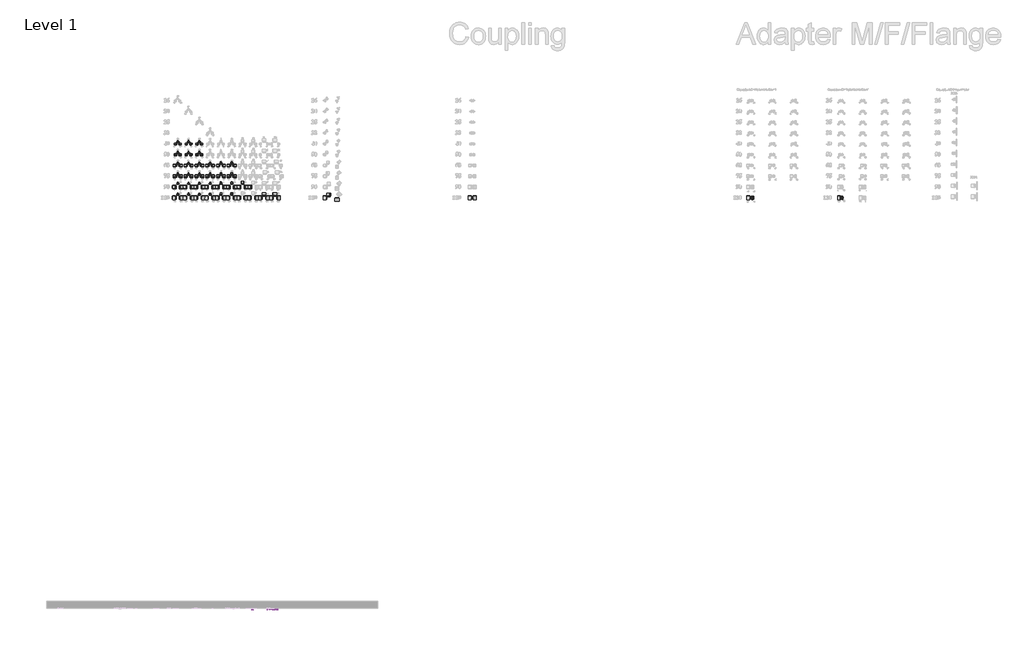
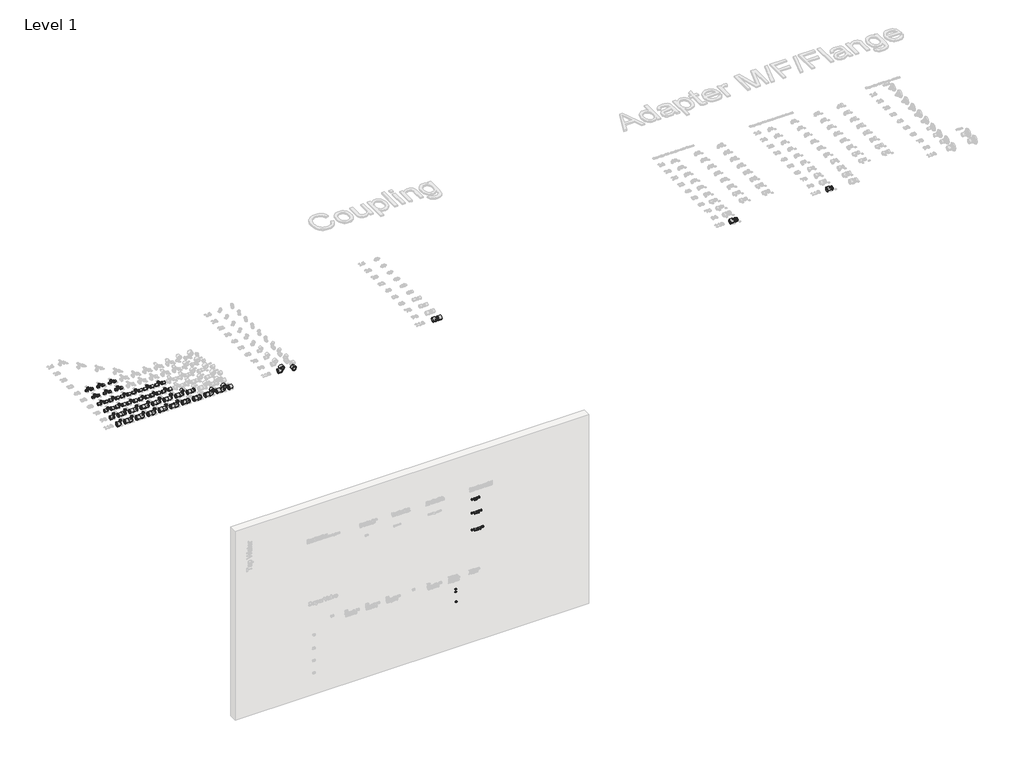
# One storey, part 2 of 57: 128 pipe fittings, 6 valves.
"""IFC4 building model written with IfcOpenShell, lengths in millimetres."""

from ifc_helpers import new_model, si_unit, origin, place, context, project, spatial, transform, mapped, element, save
from components import pipe_fitting_fd43bd29, manifold_cap_ft_2143a354, manifold_cap_mt_88d565de, rs_adapter_8da40ca7, rs_adapter_b4bbd465, rs_adapter_f82712ed, rs_adapter_ef84fdb0, rs_adapter_c6cd646c, rs_adapter_ed761ce0, rs_adapter_634e7d73, rs_adapter_fc67200b, rs_adapter_b700a1d7, rs_adapter_1ad0a11d, rs_female_adapter_0a1702e8, rs_male_adapter_f12c7176, manifold_baea2700, manifold_b658bd2c, manifold_a6c2bfd1, valve_ad88a9f9, valve_6c7f2e19, valve_fd31198a

model = new_model("IFC4")

# Units and contexts
model_context = context("Model", 3, world=origin())
ifc_project = project(units=[si_unit("LENGTHUNIT", "METRE", prefix="MILLI")], contexts=[model_context])

# Site, building, storey
site = spatial("IfcSite", under=ifc_project)
building = spatial("IfcBuilding", under=site)
storey = spatial("IfcBuildingStorey", under=building, Name="Level 1", Elevation=27.3876384)

# Pipe fittings
placement = place(None, origin())
pipe_fitting_shape = pipe_fitting_fd43bd29(model_context)
element("IfcPipeFitting", 1, ObjectType="Compression Adapter 1/2\"FT : Superpipe Compression Adapter", at=placement, inside=storey, context=model_context, shape_type="MappedRepresentation", body=[
    mapped(pipe_fitting_shape, transform((15832.3970974, 4511.8440939, 3928.2014319), x_axis=(0.0, 0.0, 1.0000000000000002), y_axis=(0.0, 1.0000000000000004, 0.0), z_axis=(-1.0000000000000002, 0.0, 0.0))),
])
element("IfcPipeFitting", 2, ObjectType="Compression Adapter 1/2\"FT : Superpipe Compression Adapter", at=placement, inside=storey, context=model_context, shape_type="MappedRepresentation", body=[
    mapped(pipe_fitting_shape, transform((15882.3970974, 4511.8440939, 3928.2014319), x_axis=(0.0, 0.0, 1.0000000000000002), y_axis=(0.0, 1.0000000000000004, 0.0), z_axis=(-1.0000000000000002, 0.0, 0.0))),
])
element("IfcPipeFitting", 3, ObjectType="Compression Adapter 1/2\"FT : Superpipe Compression Adapter", at=placement, inside=storey, context=model_context, shape_type="MappedRepresentation", body=[
    mapped(pipe_fitting_shape, transform((15832.3970974, 4511.8440939, 3550.5915778), x_axis=(0.0, 0.0, 1.0000000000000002), y_axis=(0.0, 1.0000000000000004, 0.0), z_axis=(-1.0000000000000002, 0.0, 0.0))),
])
element("IfcPipeFitting", 4, ObjectType="Compression Adapter 1/2\"FT : Superpipe Compression Adapter", at=placement, inside=storey, context=model_context, shape_type="MappedRepresentation", body=[
    mapped(pipe_fitting_shape, transform((15882.3970974, 4511.8440939, 3550.5915778), x_axis=(0.0, 0.0, 1.0000000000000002), y_axis=(0.0, 1.0000000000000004, 0.0), z_axis=(-1.0000000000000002, 0.0, 0.0))),
])
element("IfcPipeFitting", 5, ObjectType="Compression Adapter 1/2\"FT : Superpipe Compression Adapter", at=placement, inside=storey, context=model_context, shape_type="MappedRepresentation", body=[
    mapped(pipe_fitting_shape, transform((15932.3970974, 4511.8440939, 3550.5915778), x_axis=(0.0, 0.0, 1.0000000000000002), y_axis=(0.0, 1.0000000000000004, 0.0), z_axis=(-1.0000000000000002, 0.0, 0.0))),
])
element("IfcPipeFitting", 6, ObjectType="Compression Adapter 1/2\"FT : Superpipe Compression Adapter", at=placement, inside=storey, context=model_context, shape_type="MappedRepresentation", body=[
    mapped(pipe_fitting_shape, transform((15832.3970974, 4511.8440939, 3084.9820677), x_axis=(0.0, 0.0, 1.0000000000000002), y_axis=(0.0, 1.0000000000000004, 0.0), z_axis=(-1.0000000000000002, 0.0, 0.0))),
])
element("IfcPipeFitting", 7, ObjectType="Compression Adapter 1/2\"FT : Superpipe Compression Adapter", at=placement, inside=storey, context=model_context, shape_type="MappedRepresentation", body=[
    mapped(pipe_fitting_shape, transform((15882.3970974, 4511.8440939, 3084.9820677), x_axis=(0.0, 0.0, 1.0000000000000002), y_axis=(0.0, 1.0000000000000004, 0.0), z_axis=(-1.0000000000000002, 0.0, 0.0))),
])
element("IfcPipeFitting", 8, ObjectType="Compression Adapter 1/2\"FT : Superpipe Compression Adapter", at=placement, inside=storey, context=model_context, shape_type="MappedRepresentation", body=[
    mapped(pipe_fitting_shape, transform((15932.3970974, 4511.8440939, 3084.9820677), x_axis=(0.0, 0.0, 1.0000000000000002), y_axis=(0.0, 1.0000000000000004, 0.0), z_axis=(-1.0000000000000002, 0.0, 0.0))),
])
element("IfcPipeFitting", 9, ObjectType="Compression Adapter 1/2\"FT : Superpipe Compression Adapter", at=placement, inside=storey, context=model_context, shape_type="MappedRepresentation", body=[
    mapped(pipe_fitting_shape, transform((15982.3970974, 4511.8440939, 3084.9820677), x_axis=(0.0, 0.0, 1.0000000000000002), y_axis=(0.0, 1.0000000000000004, 0.0), z_axis=(-1.0000000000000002, 0.0, 0.0))),
])
manifold_cap_ft_shape = manifold_cap_ft_2143a354(model_context)
element("IfcPipeFitting", 10, ObjectType="Manifold Cap FT : Superpipe Manifold Cap With Seal- 1\" FT", at=placement, inside=storey, context=model_context, shape_type="MappedRepresentation", body=[
    mapped(manifold_cap_ft_shape, transform((15768.3970974, 4511.8440939, 3974.0856598), x_axis=(-1.0, 0.0, 0.0), y_axis=(0.0, -1.0, 0.0), z_axis=(0.0, 0.0, 1.0))),
])
element("IfcPipeFitting", 11, ObjectType="Manifold Cap FT : Superpipe Manifold Cap With Seal- 1\" FT", at=placement, inside=storey, context=model_context, shape_type="MappedRepresentation", body=[
    mapped(manifold_cap_ft_shape, transform((15768.3970974, 4511.8440939, 3596.4758057), x_axis=(-1.0, 0.0, 0.0), y_axis=(0.0, -1.0, 0.0), z_axis=(0.0, 0.0, 1.0))),
])
element("IfcPipeFitting", 12, ObjectType="Manifold Cap FT : Superpipe Manifold Cap With Seal- 1\" FT", at=placement, inside=storey, context=model_context, shape_type="MappedRepresentation", body=[
    mapped(manifold_cap_ft_shape, transform((15768.3970974, 4511.8440939, 3130.8662956), x_axis=(-1.0, 0.0, 0.0), y_axis=(0.0, -1.0, 0.0), z_axis=(0.0, 0.0, 1.0))),
])
manifold_cap_mt_shape = manifold_cap_mt_88d565de(model_context)
element("IfcPipeFitting", 13, ObjectType="Manifold Cap MT : Superpipe manifold Cap with seal- 1“MT", at=placement, inside=storey, context=model_context, shape_type="MappedRepresentation", body=[
    mapped(manifold_cap_mt_shape, transform((15941.7970974, 4511.8440939, 3974.0856598), x_axis=(1.0, 0.0, 0.0), y_axis=(0.0, -1.0, 0.0), z_axis=(0.0, 0.0, -1.0))),
])
element("IfcPipeFitting", 14, ObjectType="Manifold Cap MT : Superpipe manifold Cap with seal- 1“MT", at=placement, inside=storey, context=model_context, shape_type="MappedRepresentation", body=[
    mapped(manifold_cap_mt_shape, transform((15991.7970974, 4511.8440939, 3596.4755454), x_axis=(1.0, 0.0, 0.0), y_axis=(0.0, -1.0, 0.0), z_axis=(0.0, 0.0, -1.0))),
])
element("IfcPipeFitting", 15, ObjectType="Manifold Cap MT : Superpipe manifold Cap with seal- 1“MT", at=placement, inside=storey, context=model_context, shape_type="MappedRepresentation", body=[
    mapped(manifold_cap_mt_shape, transform((16041.7970974, 4511.8440939, 3130.8660352), x_axis=(1.0, 0.0, 0.0), y_axis=(0.0, -1.0, 0.0), z_axis=(0.0, 0.0, -1.0))),
])
rs_adapter_shape = rs_adapter_8da40ca7(model_context)
element("IfcPipeFitting", 16, ObjectType="RS Adapter : Superpipe RS Press Adapter", at=placement, inside=storey, context=model_context, shape_type="MappedRepresentation", body=[
    mapped(rs_adapter_shape, transform((13313.8568613, 15946.8081159, 27.3876384), x_axis=(1.0, 0.0, 0.0), y_axis=(0.0, 1.0, 0.0), z_axis=(0.0, 0.0, 1.0))),
])
element("IfcPipeFitting", 17, ObjectType="RS Adapter : Superpipe RS Press Adapter", at=placement, inside=storey, context=model_context, shape_type="MappedRepresentation", body=[
    mapped(rs_adapter_shape, transform((13217.8568613, 15946.8081159, 27.3876384), x_axis=(-1.0000000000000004, 0.0, 0.0), y_axis=(0.0, -1.0000000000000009, 0.0), z_axis=(0.0, 0.0, 1.0000000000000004))),
])
element("IfcPipeFitting", 18, ObjectType="RS Adapter : Superpipe RS Press Adapter", at=placement, inside=storey, context=model_context, shape_type="MappedRepresentation", body=[
    mapped(rs_adapter_shape, transform((13613.8568613, 15946.8081159, 27.3876384), x_axis=(1.0, 0.0, 0.0), y_axis=(0.0, 1.0, 0.0), z_axis=(0.0, 0.0, 1.0))),
])
element("IfcPipeFitting", 19, ObjectType="RS Adapter : Superpipe RS Press Adapter", at=placement, inside=storey, context=model_context, shape_type="MappedRepresentation", body=[
    mapped(rs_adapter_shape, transform((13517.8568613, 15946.8081159, 27.3876384), x_axis=(-1.0000000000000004, 0.0, 0.0), y_axis=(0.0, -1.0000000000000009, 0.0), z_axis=(0.0, 0.0, 1.0000000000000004))),
])
element("IfcPipeFitting", 20, ObjectType="RS Adapter : Superpipe RS Press Adapter", at=placement, inside=storey, context=model_context, shape_type="MappedRepresentation", body=[
    mapped(rs_adapter_shape, transform((13913.8568613, 15946.8081159, 27.3876384), x_axis=(1.0, 0.0, 0.0), y_axis=(0.0, 1.0, 0.0), z_axis=(0.0, 0.0, 1.0))),
])
element("IfcPipeFitting", 21, ObjectType="RS Adapter : Superpipe RS Press Adapter", at=placement, inside=storey, context=model_context, shape_type="MappedRepresentation", body=[
    mapped(rs_adapter_shape, transform((13817.8568613, 15946.8081159, 27.3876384), x_axis=(-1.0000000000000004, 0.0, 0.0), y_axis=(0.0, -1.0000000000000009, 0.0), z_axis=(0.0, 0.0, 1.0000000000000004))),
])
element("IfcPipeFitting", 22, ObjectType="RS Adapter : Superpipe RS Press Adapter", at=placement, inside=storey, context=model_context, shape_type="MappedRepresentation", body=[
    mapped(rs_adapter_shape, transform((15705.8568613, 15946.8081159, 27.3876384), x_axis=(1.0, 0.0, 0.0), y_axis=(0.0, 1.0, 0.0), z_axis=(0.0, 0.0, 1.0))),
])
element("IfcPipeFitting", 23, ObjectType="RS Adapter : Superpipe RS Press Adapter", at=placement, inside=storey, context=model_context, shape_type="MappedRepresentation", body=[
    mapped(rs_adapter_shape, transform((15609.8568613, 15946.8081159, 27.3876384), x_axis=(-1.0000000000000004, 0.0, 0.0), y_axis=(0.0, -1.0000000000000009, 0.0), z_axis=(0.0, 0.0, 1.0000000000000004))),
])
element("IfcPipeFitting", 24, ObjectType="RS Adapter : Superpipe RS Press Adapter", at=placement, inside=storey, context=model_context, shape_type="MappedRepresentation", body=[
    mapped(rs_adapter_shape, transform((16013.8568613, 15946.8081159, 27.3876384), x_axis=(1.0, 0.0, 0.0), y_axis=(0.0, 1.0, 0.0), z_axis=(0.0, 0.0, 1.0))),
])
element("IfcPipeFitting", 25, ObjectType="RS Adapter : Superpipe RS Press Adapter", at=placement, inside=storey, context=model_context, shape_type="MappedRepresentation", body=[
    mapped(rs_adapter_shape, transform((15965.8568613, 15994.8081159, 27.3876384), x_axis=(0.0, 1.0000000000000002, 0.0), y_axis=(-1.0000000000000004, 0.0, 0.0), z_axis=(0.0, 0.0, 1.0000000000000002))),
])
element("IfcPipeFitting", 26, ObjectType="RS Adapter : Superpipe RS Press Adapter", at=placement, inside=storey, context=model_context, shape_type="MappedRepresentation", body=[
    mapped(rs_adapter_shape, transform((15917.8568613, 15946.8081159, 27.3876384), x_axis=(-1.0000000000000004, 0.0, 0.0), y_axis=(0.0, -1.0000000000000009, 0.0), z_axis=(0.0, 0.0, 1.0000000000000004))),
])
element("IfcPipeFitting", 27, ObjectType="RS Adapter : Superpipe RS Press Adapter", at=placement, inside=storey, context=model_context, shape_type="MappedRepresentation", body=[
    mapped(rs_adapter_shape, transform((21437.9646899, 15946.8081159, 27.3876384), x_axis=(-1.0000000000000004, 0.0, 0.0), y_axis=(0.0, 1.0000000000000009, 0.0), z_axis=(0.0, 0.0, -1.0000000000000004))),
])
element("IfcPipeFitting", 28, ObjectType="RS Adapter : Superpipe RS Press Adapter", at=placement, inside=storey, context=model_context, shape_type="MappedRepresentation", body=[
    mapped(rs_adapter_shape, transform((21455.9646899, 15946.8081159, 27.3876384), x_axis=(1.0000000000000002, 0.0, 0.0), y_axis=(0.0, -1.0000000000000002, 0.0), z_axis=(0.0, 0.0, -1.0))),
])
element("IfcPipeFitting", 29, ObjectType="RS Adapter : Superpipe RS Press Adapter", at=placement, inside=storey, context=model_context, shape_type="MappedRepresentation", body=[
    mapped(rs_adapter_shape, transform((29176.6568613, 15946.8081159, 27.3876384), x_axis=(-1.0, 0.0, 0.0), y_axis=(0.0, 1.0, 0.0), z_axis=(0.0, 0.0, -1.0))),
])
element("IfcPipeFitting", 30, ObjectType="RS Adapter : Superpipe RS Press Adapter", at=placement, inside=storey, context=model_context, shape_type="MappedRepresentation", body=[
    mapped(rs_adapter_shape, transform((31696.6568613, 15946.8081159, 27.3876384), x_axis=(-1.0000000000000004, 0.0, 0.0), y_axis=(0.0, 1.0000000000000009, 0.0), z_axis=(0.0, 0.0, -1.0000000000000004))),
])
element("IfcPipeFitting", 31, ObjectType="RS Adapter : Superpipe RS Press Adapter", at=placement, inside=storey, context=model_context, shape_type="MappedRepresentation", body=[
    mapped(rs_adapter_shape, transform((17459.3568613, 15977.8081159, 27.3876384), x_axis=(0.0, 1.000000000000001, 0.0), y_axis=(-1.0000000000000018, 0.0, 0.0), z_axis=(0.0, 0.0, 1.0000000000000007))),
])
element("IfcPipeFitting", 32, ObjectType="RS Adapter : Superpipe RS Press Adapter", at=placement, inside=storey, context=model_context, shape_type="MappedRepresentation", body=[
    mapped(rs_adapter_shape, transform((17411.3568613, 15946.8081159, 27.3876384), x_axis=(-1.0000000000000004, 0.0, 0.0), y_axis=(0.0, -1.0000000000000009, 0.0), z_axis=(0.0, 0.0, 1.0000000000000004))),
])
element("IfcPipeFitting", 33, ObjectType="RS Adapter : Superpipe RS Press Adapter", at=placement, inside=storey, context=model_context, shape_type="MappedRepresentation", body=[
    mapped(rs_adapter_shape, transform((17689.2955265, 15954.8896532, 27.3876384), x_axis=(0.0, -1.000000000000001, 0.0), y_axis=(1.0000000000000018, 0.0, 0.0), z_axis=(0.0, 0.0, 1.0000000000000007))),
])
element("IfcPipeFitting", 34, ObjectType="RS Adapter : Superpipe RS Press Adapter", at=placement, inside=storey, context=model_context, shape_type="MappedRepresentation", body=[
    mapped(rs_adapter_shape, transform((15405.2392827, 15946.8081159, 27.3876384), x_axis=(1.0, 0.0, 0.0), y_axis=(0.0, 1.0, 0.0), z_axis=(0.0, 0.0, 1.0))),
])
element("IfcPipeFitting", 35, ObjectType="RS Adapter : Superpipe RS Press Adapter", at=placement, inside=storey, context=model_context, shape_type="MappedRepresentation", body=[
    mapped(rs_adapter_shape, transform((15309.2392827, 15946.8081159, 27.3876384), x_axis=(-1.0000000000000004, 0.0, 0.0), y_axis=(0.0, -1.0000000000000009, 0.0), z_axis=(0.0, 0.0, 1.0000000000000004))),
])
element("IfcPipeFitting", 36, ObjectType="RS Adapter : Superpipe RS Press Adapter", at=placement, inside=storey, context=model_context, shape_type="MappedRepresentation", body=[
    mapped(rs_adapter_shape, transform((15105.765703, 15946.8081159, 27.3876384), x_axis=(1.0, 0.0, 0.0), y_axis=(0.0, 1.0, 0.0), z_axis=(0.0, 0.0, 1.0))),
])
element("IfcPipeFitting", 37, ObjectType="RS Adapter : Superpipe RS Press Adapter", at=placement, inside=storey, context=model_context, shape_type="MappedRepresentation", body=[
    mapped(rs_adapter_shape, transform((15009.765703, 15946.8081159, 27.3876384), x_axis=(-1.0000000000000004, 0.0, 0.0), y_axis=(0.0, -1.0000000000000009, 0.0), z_axis=(0.0, 0.0, 1.0000000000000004))),
])
element("IfcPipeFitting", 38, ObjectType="RS Adapter : Superpipe RS Press Adapter", at=placement, inside=storey, context=model_context, shape_type="MappedRepresentation", body=[
    mapped(rs_adapter_shape, transform((14809.5592318, 15946.8081159, 27.3876384), x_axis=(1.0, 0.0, 0.0), y_axis=(0.0, 1.0, 0.0), z_axis=(0.0, 0.0, 1.0))),
])
element("IfcPipeFitting", 39, ObjectType="RS Adapter : Superpipe RS Press Adapter", at=placement, inside=storey, context=model_context, shape_type="MappedRepresentation", body=[
    mapped(rs_adapter_shape, transform((14713.5592318, 15946.8081159, 27.3876384), x_axis=(-1.0000000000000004, 0.0, 0.0), y_axis=(0.0, -1.0000000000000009, 0.0), z_axis=(0.0, 0.0, 1.0000000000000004))),
])
element("IfcPipeFitting", 40, ObjectType="RS Adapter : Superpipe RS Press Adapter", at=placement, inside=storey, context=model_context, shape_type="MappedRepresentation", body=[
    mapped(rs_adapter_shape, transform((14508.4742183, 15946.8081159, 27.3876384), x_axis=(1.0, 0.0, 0.0), y_axis=(0.0, 1.0, 0.0), z_axis=(0.0, 0.0, 1.0))),
])
element("IfcPipeFitting", 41, ObjectType="RS Adapter : Superpipe RS Press Adapter", at=placement, inside=storey, context=model_context, shape_type="MappedRepresentation", body=[
    mapped(rs_adapter_shape, transform((14412.4742183, 15946.8081159, 27.3876384), x_axis=(-1.0000000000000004, 0.0, 0.0), y_axis=(0.0, -1.0000000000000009, 0.0), z_axis=(0.0, 0.0, 1.0000000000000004))),
])
element("IfcPipeFitting", 42, ObjectType="RS Adapter : Superpipe RS Press Adapter", at=placement, inside=storey, context=model_context, shape_type="MappedRepresentation", body=[
    mapped(rs_adapter_shape, transform((14211.0780706, 15945.8788923, 27.3876384), x_axis=(1.0, 0.0, 0.0), y_axis=(0.0, 1.0, 0.0), z_axis=(0.0, 0.0, 1.0))),
])
element("IfcPipeFitting", 43, ObjectType="RS Adapter : Superpipe RS Press Adapter", at=placement, inside=storey, context=model_context, shape_type="MappedRepresentation", body=[
    mapped(rs_adapter_shape, transform((14115.0780706, 15945.8788923, 27.3876384), x_axis=(-1.0000000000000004, 0.0, 0.0), y_axis=(0.0, -1.0000000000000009, 0.0), z_axis=(0.0, 0.0, 1.0000000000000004))),
])
rs_adapter_2_shape = rs_adapter_b4bbd465(model_context)
element("IfcPipeFitting", 44, ObjectType="RS Adapter : Superpipe RS Press Adapter", at=placement, inside=storey, context=model_context, shape_type="MappedRepresentation", body=[
    mapped(rs_adapter_2_shape, transform((13265.8568613, 16021.8081159, 27.3876384), x_axis=(0.0, 1.0000000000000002, 0.0), y_axis=(-1.0000000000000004, 0.0, 0.0), z_axis=(0.0, 0.0, 1.0000000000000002))),
])
element("IfcPipeFitting", 45, ObjectType="RS Adapter : Superpipe RS Press Adapter", at=placement, inside=storey, context=model_context, shape_type="MappedRepresentation", body=[
    mapped(rs_adapter_2_shape, transform((13265.8568613, 16321.8081159, 27.3876384), x_axis=(0.0, 1.0000000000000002, 0.0), y_axis=(1.0000000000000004, 0.0, 0.0), z_axis=(0.0, 0.0, -1.0000000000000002))),
])
element("IfcPipeFitting", 46, ObjectType="RS Adapter : Superpipe RS Press Adapter", at=placement, inside=storey, context=model_context, shape_type="MappedRepresentation", body=[
    mapped(rs_adapter_2_shape, transform((13265.8568613, 17477.8081159, 27.3876384), x_axis=(0.0, 1.0000000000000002, 0.0), y_axis=(1.0000000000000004, 0.0, 0.0), z_axis=(0.0, 0.0, -1.0000000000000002))),
])
element("IfcPipeFitting", 47, ObjectType="RS Adapter : Superpipe RS Press Adapter", at=placement, inside=storey, context=model_context, shape_type="MappedRepresentation", body=[
    mapped(rs_adapter_2_shape, transform((13265.8568613, 17177.8081159, 27.3876384), x_axis=(0.0, 1.0000000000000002, 0.0), y_axis=(1.0000000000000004, 0.0, 0.0), z_axis=(0.0, 0.0, -1.0000000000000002))),
])
element("IfcPipeFitting", 48, ObjectType="RS Adapter : Superpipe RS Press Adapter", at=placement, inside=storey, context=model_context, shape_type="MappedRepresentation", body=[
    mapped(rs_adapter_2_shape, transform((13265.8568613, 16877.8081159, 27.3876384), x_axis=(0.0, 1.0000000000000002, 0.0), y_axis=(1.0000000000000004, 0.0, 0.0), z_axis=(0.0, 0.0, -1.0000000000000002))),
])
element("IfcPipeFitting", 49, ObjectType="RS Adapter : Superpipe RS Press Adapter", at=placement, inside=storey, context=model_context, shape_type="MappedRepresentation", body=[
    mapped(rs_adapter_2_shape, transform((13265.8568613, 16577.8081159, 27.3876384), x_axis=(0.0, 1.0000000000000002, 0.0), y_axis=(1.0000000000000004, 0.0, 0.0), z_axis=(0.0, 0.0, -1.0000000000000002))),
])
rs_adapter_3_shape = rs_adapter_f82712ed(model_context)
element("IfcPipeFitting", 50, ObjectType="RS Adapter : Superpipe RS Press Adapter", at=placement, inside=storey, context=model_context, shape_type="MappedRepresentation", body=[
    mapped(rs_adapter_3_shape, transform((13565.8568613, 16021.8081159, 27.3876384), x_axis=(0.0, 1.0000000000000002, 0.0), y_axis=(-1.0000000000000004, 0.0, 0.0), z_axis=(0.0, 0.0, 1.0000000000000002))),
])
element("IfcPipeFitting", 51, ObjectType="RS Adapter : Superpipe RS Press Adapter", at=placement, inside=storey, context=model_context, shape_type="MappedRepresentation", body=[
    mapped(rs_adapter_3_shape, transform((13565.8568613, 16321.8081159, 27.3876384), x_axis=(0.0, 1.0000000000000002, 0.0), y_axis=(1.0000000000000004, 0.0, 0.0), z_axis=(0.0, 0.0, -1.0000000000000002))),
])
element("IfcPipeFitting", 52, ObjectType="RS Adapter : Superpipe RS Press Adapter", at=placement, inside=storey, context=model_context, shape_type="MappedRepresentation", body=[
    mapped(rs_adapter_3_shape, transform((13565.8568613, 17477.8081159, 27.3876384), x_axis=(0.0, 1.0000000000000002, 0.0), y_axis=(1.0000000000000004, 0.0, 0.0), z_axis=(0.0, 0.0, -1.0000000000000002))),
])
element("IfcPipeFitting", 53, ObjectType="RS Adapter : Superpipe RS Press Adapter", at=placement, inside=storey, context=model_context, shape_type="MappedRepresentation", body=[
    mapped(rs_adapter_3_shape, transform((13565.8568613, 17177.8081159, 27.3876384), x_axis=(0.0, 1.0000000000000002, 0.0), y_axis=(1.0000000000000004, 0.0, 0.0), z_axis=(0.0, 0.0, -1.0000000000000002))),
])
element("IfcPipeFitting", 54, ObjectType="RS Adapter : Superpipe RS Press Adapter", at=placement, inside=storey, context=model_context, shape_type="MappedRepresentation", body=[
    mapped(rs_adapter_3_shape, transform((13565.8568613, 16877.8081159, 27.3876384), x_axis=(0.0, 1.0000000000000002, 0.0), y_axis=(1.0000000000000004, 0.0, 0.0), z_axis=(0.0, 0.0, -1.0000000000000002))),
])
element("IfcPipeFitting", 55, ObjectType="RS Adapter : Superpipe RS Press Adapter", at=placement, inside=storey, context=model_context, shape_type="MappedRepresentation", body=[
    mapped(rs_adapter_3_shape, transform((13565.8568613, 16577.8081159, 27.3876384), x_axis=(0.0, 1.0000000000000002, 0.0), y_axis=(1.0000000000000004, 0.0, 0.0), z_axis=(0.0, 0.0, -1.0000000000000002))),
])
rs_adapter_4_shape = rs_adapter_ef84fdb0(model_context)
element("IfcPipeFitting", 56, ObjectType="RS Adapter : Superpipe RS Press Adapter", at=placement, inside=storey, context=model_context, shape_type="MappedRepresentation", body=[
    mapped(rs_adapter_4_shape, transform((13865.8568613, 16021.8081159, 27.3876384), x_axis=(0.0, 1.0000000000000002, 0.0), y_axis=(-1.0000000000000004, 0.0, 0.0), z_axis=(0.0, 0.0, 1.0000000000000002))),
])
element("IfcPipeFitting", 57, ObjectType="RS Adapter : Superpipe RS Press Adapter", at=placement, inside=storey, context=model_context, shape_type="MappedRepresentation", body=[
    mapped(rs_adapter_4_shape, transform((13865.8568613, 16321.8081159, 27.3876384), x_axis=(0.0, 1.0000000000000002, 0.0), y_axis=(1.0000000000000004, 0.0, 0.0), z_axis=(0.0, 0.0, -1.0000000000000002))),
])
element("IfcPipeFitting", 58, ObjectType="RS Adapter : Superpipe RS Press Adapter", at=placement, inside=storey, context=model_context, shape_type="MappedRepresentation", body=[
    mapped(rs_adapter_4_shape, transform((13865.8568613, 17477.8081159, 27.3876384), x_axis=(0.0, 1.0000000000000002, 0.0), y_axis=(1.0000000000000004, 0.0, 0.0), z_axis=(0.0, 0.0, -1.0000000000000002))),
])
element("IfcPipeFitting", 59, ObjectType="RS Adapter : Superpipe RS Press Adapter", at=placement, inside=storey, context=model_context, shape_type="MappedRepresentation", body=[
    mapped(rs_adapter_4_shape, transform((13865.8568613, 17177.8081159, 27.3876384), x_axis=(0.0, 1.0000000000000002, 0.0), y_axis=(1.0000000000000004, 0.0, 0.0), z_axis=(0.0, 0.0, -1.0000000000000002))),
])
element("IfcPipeFitting", 60, ObjectType="RS Adapter : Superpipe RS Press Adapter", at=placement, inside=storey, context=model_context, shape_type="MappedRepresentation", body=[
    mapped(rs_adapter_4_shape, transform((13865.8568613, 16877.8081159, 27.3876384), x_axis=(0.0, 1.0000000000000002, 0.0), y_axis=(1.0000000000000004, 0.0, 0.0), z_axis=(0.0, 0.0, -1.0000000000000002))),
])
element("IfcPipeFitting", 61, ObjectType="RS Adapter : Superpipe RS Press Adapter", at=placement, inside=storey, context=model_context, shape_type="MappedRepresentation", body=[
    mapped(rs_adapter_4_shape, transform((13865.8568613, 16577.8081159, 27.3876384), x_axis=(0.0, 1.0000000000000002, 0.0), y_axis=(1.0000000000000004, 0.0, 0.0), z_axis=(0.0, 0.0, -1.0000000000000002))),
])
rs_adapter_5_shape = rs_adapter_c6cd646c(model_context)
element("IfcPipeFitting", 62, ObjectType="RS Adapter : Superpipe RS Press Adapter", at=placement, inside=storey, context=model_context, shape_type="MappedRepresentation", body=[
    mapped(rs_adapter_5_shape, transform((15657.8568613, 15994.8081159, 27.3876384), x_axis=(0.0, 1.0000000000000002, 0.0), y_axis=(-1.0000000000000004, 0.0, 0.0), z_axis=(0.0, 0.0, 1.0000000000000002))),
])
element("IfcPipeFitting", 63, ObjectType="RS Adapter : Superpipe RS Press Adapter", at=placement, inside=storey, context=model_context, shape_type="MappedRepresentation", body=[
    mapped(rs_adapter_5_shape, transform((13217.8568613, 16246.8081159, 27.3876384), x_axis=(-1.0, 0.0, 0.0), y_axis=(0.0, 1.0, 0.0), z_axis=(0.0, 0.0, -1.0))),
])
element("IfcPipeFitting", 64, ObjectType="RS Adapter : Superpipe RS Press Adapter", at=placement, inside=storey, context=model_context, shape_type="MappedRepresentation", body=[
    mapped(rs_adapter_5_shape, transform((13313.8568613, 16246.8081159, 27.3876384), x_axis=(1.0000000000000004, 0.0, 0.0), y_axis=(0.0, -1.0000000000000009, 0.0), z_axis=(0.0, 0.0, -1.0000000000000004))),
])
element("IfcPipeFitting", 65, ObjectType="RS Adapter : Superpipe RS Press Adapter", at=placement, inside=storey, context=model_context, shape_type="MappedRepresentation", body=[
    mapped(rs_adapter_5_shape, transform((13517.8568613, 16246.8081159, 27.3876384), x_axis=(-1.0, 0.0, 0.0), y_axis=(0.0, 1.0, 0.0), z_axis=(0.0, 0.0, -1.0))),
])
element("IfcPipeFitting", 66, ObjectType="RS Adapter : Superpipe RS Press Adapter", at=placement, inside=storey, context=model_context, shape_type="MappedRepresentation", body=[
    mapped(rs_adapter_5_shape, transform((13613.8568613, 16246.8081159, 27.3876384), x_axis=(1.0000000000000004, 0.0, 0.0), y_axis=(0.0, -1.0000000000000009, 0.0), z_axis=(0.0, 0.0, -1.0000000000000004))),
])
element("IfcPipeFitting", 67, ObjectType="RS Adapter : Superpipe RS Press Adapter", at=placement, inside=storey, context=model_context, shape_type="MappedRepresentation", body=[
    mapped(rs_adapter_5_shape, transform((13817.8568613, 16246.8081159, 27.3876384), x_axis=(-1.0, 0.0, 0.0), y_axis=(0.0, 1.0, 0.0), z_axis=(0.0, 0.0, -1.0))),
])
element("IfcPipeFitting", 68, ObjectType="RS Adapter : Superpipe RS Press Adapter", at=placement, inside=storey, context=model_context, shape_type="MappedRepresentation", body=[
    mapped(rs_adapter_5_shape, transform((13913.8568613, 16246.8081159, 27.3876384), x_axis=(1.0000000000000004, 0.0, 0.0), y_axis=(0.0, -1.0000000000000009, 0.0), z_axis=(0.0, 0.0, -1.0000000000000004))),
])
element("IfcPipeFitting", 69, ObjectType="RS Adapter : Superpipe RS Press Adapter", at=placement, inside=storey, context=model_context, shape_type="MappedRepresentation", body=[
    mapped(rs_adapter_5_shape, transform((14117.8568613, 16246.8081159, 27.3876384), x_axis=(-1.0, 0.0, 0.0), y_axis=(0.0, 1.0, 0.0), z_axis=(0.0, 0.0, -1.0))),
])
element("IfcPipeFitting", 70, ObjectType="RS Adapter : Superpipe RS Press Adapter", at=placement, inside=storey, context=model_context, shape_type="MappedRepresentation", body=[
    mapped(rs_adapter_5_shape, transform((14213.8568613, 16246.8081159, 27.3876384), x_axis=(1.0000000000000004, 0.0, 0.0), y_axis=(0.0, -1.0000000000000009, 0.0), z_axis=(0.0, 0.0, -1.0000000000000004))),
])
element("IfcPipeFitting", 71, ObjectType="RS Adapter : Superpipe RS Press Adapter", at=placement, inside=storey, context=model_context, shape_type="MappedRepresentation", body=[
    mapped(rs_adapter_5_shape, transform((14417.8568613, 16246.8081159, 27.3876384), x_axis=(-1.0, 0.0, 0.0), y_axis=(0.0, 1.0, 0.0), z_axis=(0.0, 0.0, -1.0))),
])
element("IfcPipeFitting", 72, ObjectType="RS Adapter : Superpipe RS Press Adapter", at=placement, inside=storey, context=model_context, shape_type="MappedRepresentation", body=[
    mapped(rs_adapter_5_shape, transform((14513.8568613, 16246.8081159, 27.3876384), x_axis=(1.0000000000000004, 0.0, 0.0), y_axis=(0.0, -1.0000000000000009, 0.0), z_axis=(0.0, 0.0, -1.0000000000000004))),
])
element("IfcPipeFitting", 73, ObjectType="RS Adapter : Superpipe RS Press Adapter", at=placement, inside=storey, context=model_context, shape_type="MappedRepresentation", body=[
    mapped(rs_adapter_5_shape, transform((14717.8568613, 16246.8081159, 27.3876384), x_axis=(-1.0, 0.0, 0.0), y_axis=(0.0, 1.0, 0.0), z_axis=(0.0, 0.0, -1.0))),
])
element("IfcPipeFitting", 74, ObjectType="RS Adapter : Superpipe RS Press Adapter", at=placement, inside=storey, context=model_context, shape_type="MappedRepresentation", body=[
    mapped(rs_adapter_5_shape, transform((14813.8568613, 16246.8081159, 27.3876384), x_axis=(1.0000000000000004, 0.0, 0.0), y_axis=(0.0, -1.0000000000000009, 0.0), z_axis=(0.0, 0.0, -1.0000000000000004))),
])
element("IfcPipeFitting", 75, ObjectType="RS Adapter : Superpipe RS Press Adapter", at=placement, inside=storey, context=model_context, shape_type="MappedRepresentation", body=[
    mapped(rs_adapter_5_shape, transform((15017.8568613, 16246.8081159, 27.3876384), x_axis=(-1.0, 0.0, 0.0), y_axis=(0.0, 1.0, 0.0), z_axis=(0.0, 0.0, -1.0))),
])
element("IfcPipeFitting", 76, ObjectType="RS Adapter : Superpipe RS Press Adapter", at=placement, inside=storey, context=model_context, shape_type="MappedRepresentation", body=[
    mapped(rs_adapter_5_shape, transform((15113.8568613, 16246.8081159, 27.3876384), x_axis=(1.0000000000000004, 0.0, 0.0), y_axis=(0.0, -1.0000000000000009, 0.0), z_axis=(0.0, 0.0, -1.0000000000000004))),
])
element("IfcPipeFitting", 77, ObjectType="RS Adapter : Superpipe RS Press Adapter", at=placement, inside=storey, context=model_context, shape_type="MappedRepresentation", body=[
    mapped(rs_adapter_5_shape, transform((15317.8568613, 16246.8081159, 27.3876384), x_axis=(-1.0, 0.0, 0.0), y_axis=(0.0, 1.0, 0.0), z_axis=(0.0, 0.0, -1.0))),
])
rs_adapter_6_shape = rs_adapter_ed761ce0(model_context)
element("IfcPipeFitting", 78, ObjectType="RS Adapter : Superpipe RS Press Adapter", at=placement, inside=storey, context=model_context, shape_type="MappedRepresentation", body=[
    mapped(rs_adapter_6_shape, transform((14165.8568613, 16321.8081159, 27.3876384), x_axis=(0.0, 1.0000000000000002, 0.0), y_axis=(1.0000000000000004, 0.0, 0.0), z_axis=(0.0, 0.0, -1.0000000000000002))),
])
element("IfcPipeFitting", 79, ObjectType="RS Adapter : Superpipe RS Press Adapter", at=placement, inside=storey, context=model_context, shape_type="MappedRepresentation", body=[
    mapped(rs_adapter_6_shape, transform((14165.8568613, 16877.8081159, 27.3876384), x_axis=(0.0, 1.0000000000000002, 0.0), y_axis=(1.0000000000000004, 0.0, 0.0), z_axis=(0.0, 0.0, -1.0000000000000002))),
])
element("IfcPipeFitting", 80, ObjectType="RS Adapter : Superpipe RS Press Adapter", at=placement, inside=storey, context=model_context, shape_type="MappedRepresentation", body=[
    mapped(rs_adapter_6_shape, transform((14165.8568613, 16577.8081159, 27.3876384), x_axis=(0.0, 1.0000000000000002, 0.0), y_axis=(1.0000000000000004, 0.0, 0.0), z_axis=(0.0, 0.0, -1.0000000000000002))),
])
element("IfcPipeFitting", 81, ObjectType="RS Adapter : Superpipe RS Press Adapter", at=placement, inside=storey, context=model_context, shape_type="MappedRepresentation", body=[
    mapped(rs_adapter_6_shape, transform((14163.0780706, 16020.8788923, 27.3876384), x_axis=(0.0, 1.0000000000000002, 0.0), y_axis=(-1.0000000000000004, 0.0, 0.0), z_axis=(0.0, 0.0, 1.0000000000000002))),
])
rs_adapter_7_shape = rs_adapter_634e7d73(model_context)
element("IfcPipeFitting", 82, ObjectType="RS Adapter : Superpipe RS Press Adapter", at=placement, inside=storey, context=model_context, shape_type="MappedRepresentation", body=[
    mapped(rs_adapter_7_shape, transform((14465.8568613, 16321.8081159, 27.3876384), x_axis=(0.0, 1.0000000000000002, 0.0), y_axis=(1.0000000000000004, 0.0, 0.0), z_axis=(0.0, 0.0, -1.0000000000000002))),
])
element("IfcPipeFitting", 83, ObjectType="RS Adapter : Superpipe RS Press Adapter", at=placement, inside=storey, context=model_context, shape_type="MappedRepresentation", body=[
    mapped(rs_adapter_7_shape, transform((13234.8568613, 17446.8081159, 27.3876384), x_axis=(-1.0, 0.0, 0.0), y_axis=(0.0, 1.0, 0.0), z_axis=(0.0, 0.0, -1.0))),
])
element("IfcPipeFitting", 84, ObjectType="RS Adapter : Superpipe RS Press Adapter", at=placement, inside=storey, context=model_context, shape_type="MappedRepresentation", body=[
    mapped(rs_adapter_7_shape, transform((13296.8568613, 17446.8081159, 27.3876384), x_axis=(1.0000000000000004, 0.0, 0.0), y_axis=(0.0, -1.0000000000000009, 0.0), z_axis=(0.0, 0.0, -1.0000000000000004))),
])
element("IfcPipeFitting", 85, ObjectType="RS Adapter : Superpipe RS Press Adapter", at=placement, inside=storey, context=model_context, shape_type="MappedRepresentation", body=[
    mapped(rs_adapter_7_shape, transform((13534.8568613, 17446.8081159, 27.3876384), x_axis=(-1.0, 0.0, 0.0), y_axis=(0.0, 1.0, 0.0), z_axis=(0.0, 0.0, -1.0))),
])
element("IfcPipeFitting", 86, ObjectType="RS Adapter : Superpipe RS Press Adapter", at=placement, inside=storey, context=model_context, shape_type="MappedRepresentation", body=[
    mapped(rs_adapter_7_shape, transform((13596.8568613, 17446.8081159, 27.3876384), x_axis=(1.0000000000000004, 0.0, 0.0), y_axis=(0.0, -1.0000000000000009, 0.0), z_axis=(0.0, 0.0, -1.0000000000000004))),
])
element("IfcPipeFitting", 87, ObjectType="RS Adapter : Superpipe RS Press Adapter", at=placement, inside=storey, context=model_context, shape_type="MappedRepresentation", body=[
    mapped(rs_adapter_7_shape, transform((13834.8568613, 17446.8081159, 27.3876384), x_axis=(-1.0, 0.0, 0.0), y_axis=(0.0, 1.0, 0.0), z_axis=(0.0, 0.0, -1.0))),
])
element("IfcPipeFitting", 88, ObjectType="RS Adapter : Superpipe RS Press Adapter", at=placement, inside=storey, context=model_context, shape_type="MappedRepresentation", body=[
    mapped(rs_adapter_7_shape, transform((13896.8568613, 17446.8081159, 27.3876384), x_axis=(1.0000000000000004, 0.0, 0.0), y_axis=(0.0, -1.0000000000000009, 0.0), z_axis=(0.0, 0.0, -1.0000000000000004))),
])
element("IfcPipeFitting", 89, ObjectType="RS Adapter : Superpipe RS Press Adapter", at=placement, inside=storey, context=model_context, shape_type="MappedRepresentation", body=[
    mapped(rs_adapter_7_shape, transform((14465.8568613, 16877.8081159, 27.3876384), x_axis=(0.0, 1.0000000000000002, 0.0), y_axis=(1.0000000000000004, 0.0, 0.0), z_axis=(0.0, 0.0, -1.0000000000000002))),
])
element("IfcPipeFitting", 90, ObjectType="RS Adapter : Superpipe RS Press Adapter", at=placement, inside=storey, context=model_context, shape_type="MappedRepresentation", body=[
    mapped(rs_adapter_7_shape, transform((14465.8568613, 16577.8081159, 27.3876384), x_axis=(0.0, 1.0000000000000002, 0.0), y_axis=(1.0000000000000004, 0.0, 0.0), z_axis=(0.0, 0.0, -1.0000000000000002))),
])
element("IfcPipeFitting", 91, ObjectType="RS Adapter : Superpipe RS Press Adapter", at=placement, inside=storey, context=model_context, shape_type="MappedRepresentation", body=[
    mapped(rs_adapter_7_shape, transform((14460.4742183, 16021.8081159, 27.3876384), x_axis=(0.0, 1.0000000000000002, 0.0), y_axis=(-1.0000000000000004, 0.0, 0.0), z_axis=(0.0, 0.0, 1.0000000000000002))),
])
rs_adapter_8_shape = rs_adapter_fc67200b(model_context)
element("IfcPipeFitting", 92, ObjectType="RS Adapter : Superpipe RS Press Adapter", at=placement, inside=storey, context=model_context, shape_type="MappedRepresentation", body=[
    mapped(rs_adapter_8_shape, transform((14765.8568613, 16321.8081159, 27.3876384), x_axis=(0.0, 1.0000000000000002, 0.0), y_axis=(1.0000000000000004, 0.0, 0.0), z_axis=(0.0, 0.0, -1.0000000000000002))),
])
element("IfcPipeFitting", 93, ObjectType="RS Adapter : Superpipe RS Press Adapter", at=placement, inside=storey, context=model_context, shape_type="MappedRepresentation", body=[
    mapped(rs_adapter_8_shape, transform((13234.8568613, 17146.8081159, 27.3876384), x_axis=(-1.0, 0.0, 0.0), y_axis=(0.0, 1.0, 0.0), z_axis=(0.0, 0.0, -1.0))),
])
element("IfcPipeFitting", 94, ObjectType="RS Adapter : Superpipe RS Press Adapter", at=placement, inside=storey, context=model_context, shape_type="MappedRepresentation", body=[
    mapped(rs_adapter_8_shape, transform((13296.8568613, 17146.8081159, 27.3876384), x_axis=(1.0000000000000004, 0.0, 0.0), y_axis=(0.0, -1.0000000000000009, 0.0), z_axis=(0.0, 0.0, -1.0000000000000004))),
])
element("IfcPipeFitting", 95, ObjectType="RS Adapter : Superpipe RS Press Adapter", at=placement, inside=storey, context=model_context, shape_type="MappedRepresentation", body=[
    mapped(rs_adapter_8_shape, transform((13534.8568613, 17146.8081159, 27.3876384), x_axis=(-1.0, 0.0, 0.0), y_axis=(0.0, 1.0, 0.0), z_axis=(0.0, 0.0, -1.0))),
])
element("IfcPipeFitting", 96, ObjectType="RS Adapter : Superpipe RS Press Adapter", at=placement, inside=storey, context=model_context, shape_type="MappedRepresentation", body=[
    mapped(rs_adapter_8_shape, transform((13596.8568613, 17146.8081159, 27.3876384), x_axis=(1.0000000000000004, 0.0, 0.0), y_axis=(0.0, -1.0000000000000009, 0.0), z_axis=(0.0, 0.0, -1.0000000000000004))),
])
element("IfcPipeFitting", 97, ObjectType="RS Adapter : Superpipe RS Press Adapter", at=placement, inside=storey, context=model_context, shape_type="MappedRepresentation", body=[
    mapped(rs_adapter_8_shape, transform((13834.8568613, 17146.8081159, 27.3876384), x_axis=(-1.0, 0.0, 0.0), y_axis=(0.0, 1.0, 0.0), z_axis=(0.0, 0.0, -1.0))),
])
element("IfcPipeFitting", 98, ObjectType="RS Adapter : Superpipe RS Press Adapter", at=placement, inside=storey, context=model_context, shape_type="MappedRepresentation", body=[
    mapped(rs_adapter_8_shape, transform((13896.8568613, 17146.8081159, 27.3876384), x_axis=(1.0000000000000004, 0.0, 0.0), y_axis=(0.0, -1.0000000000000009, 0.0), z_axis=(0.0, 0.0, -1.0000000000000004))),
])
element("IfcPipeFitting", 99, ObjectType="RS Adapter : Superpipe RS Press Adapter", at=placement, inside=storey, context=model_context, shape_type="MappedRepresentation", body=[
    mapped(rs_adapter_8_shape, transform((14765.8568613, 16877.8081159, 27.3876384), x_axis=(0.0, 1.0000000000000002, 0.0), y_axis=(1.0000000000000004, 0.0, 0.0), z_axis=(0.0, 0.0, -1.0000000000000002))),
])
element("IfcPipeFitting", 100, ObjectType="RS Adapter : Superpipe RS Press Adapter", at=placement, inside=storey, context=model_context, shape_type="MappedRepresentation", body=[
    mapped(rs_adapter_8_shape, transform((14765.8568613, 16577.8081159, 27.3876384), x_axis=(0.0, 1.0000000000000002, 0.0), y_axis=(1.0000000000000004, 0.0, 0.0), z_axis=(0.0, 0.0, -1.0000000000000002))),
])
element("IfcPipeFitting", 101, ObjectType="RS Adapter : Superpipe RS Press Adapter", at=placement, inside=storey, context=model_context, shape_type="MappedRepresentation", body=[
    mapped(rs_adapter_8_shape, transform((14761.5592318, 16021.8081159, 27.3876384), x_axis=(0.0, 1.0000000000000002, 0.0), y_axis=(-1.0000000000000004, 0.0, 0.0), z_axis=(0.0, 0.0, 1.0000000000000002))),
])
rs_adapter_9_shape = rs_adapter_b700a1d7(model_context)
element("IfcPipeFitting", 102, ObjectType="RS Adapter : Superpipe RS Press Adapter", at=placement, inside=storey, context=model_context, shape_type="MappedRepresentation", body=[
    mapped(rs_adapter_9_shape, transform((13234.8568613, 16546.8081159, 27.3876384), x_axis=(-1.0, 0.0, 0.0), y_axis=(0.0, 1.0, 0.0), z_axis=(0.0, 0.0, -1.0))),
])
element("IfcPipeFitting", 103, ObjectType="RS Adapter : Superpipe RS Press Adapter", at=placement, inside=storey, context=model_context, shape_type="MappedRepresentation", body=[
    mapped(rs_adapter_9_shape, transform((13296.8568613, 16546.8081159, 27.3876384), x_axis=(1.0000000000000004, 0.0, 0.0), y_axis=(0.0, -1.0000000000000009, 0.0), z_axis=(0.0, 0.0, -1.0000000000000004))),
])
element("IfcPipeFitting", 104, ObjectType="RS Adapter : Superpipe RS Press Adapter", at=placement, inside=storey, context=model_context, shape_type="MappedRepresentation", body=[
    mapped(rs_adapter_9_shape, transform((13534.8568613, 16546.8081159, 27.3876384), x_axis=(-1.0, 0.0, 0.0), y_axis=(0.0, 1.0, 0.0), z_axis=(0.0, 0.0, -1.0))),
])
element("IfcPipeFitting", 105, ObjectType="RS Adapter : Superpipe RS Press Adapter", at=placement, inside=storey, context=model_context, shape_type="MappedRepresentation", body=[
    mapped(rs_adapter_9_shape, transform((13596.8568613, 16546.8081159, 27.3876384), x_axis=(1.0000000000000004, 0.0, 0.0), y_axis=(0.0, -1.0000000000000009, 0.0), z_axis=(0.0, 0.0, -1.0000000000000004))),
])
element("IfcPipeFitting", 106, ObjectType="RS Adapter : Superpipe RS Press Adapter", at=placement, inside=storey, context=model_context, shape_type="MappedRepresentation", body=[
    mapped(rs_adapter_9_shape, transform((13834.8568613, 16546.8081159, 27.3876384), x_axis=(-1.0, 0.0, 0.0), y_axis=(0.0, 1.0, 0.0), z_axis=(0.0, 0.0, -1.0))),
])
element("IfcPipeFitting", 107, ObjectType="RS Adapter : Superpipe RS Press Adapter", at=placement, inside=storey, context=model_context, shape_type="MappedRepresentation", body=[
    mapped(rs_adapter_9_shape, transform((13896.8568613, 16546.8081159, 27.3876384), x_axis=(1.0000000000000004, 0.0, 0.0), y_axis=(0.0, -1.0000000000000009, 0.0), z_axis=(0.0, 0.0, -1.0000000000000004))),
])
element("IfcPipeFitting", 108, ObjectType="RS Adapter : Superpipe RS Press Adapter", at=placement, inside=storey, context=model_context, shape_type="MappedRepresentation", body=[
    mapped(rs_adapter_9_shape, transform((14134.8568613, 16546.8081159, 27.3876384), x_axis=(-1.0, 0.0, 0.0), y_axis=(0.0, 1.0, 0.0), z_axis=(0.0, 0.0, -1.0))),
])
element("IfcPipeFitting", 109, ObjectType="RS Adapter : Superpipe RS Press Adapter", at=placement, inside=storey, context=model_context, shape_type="MappedRepresentation", body=[
    mapped(rs_adapter_9_shape, transform((14196.8568613, 16546.8081159, 27.3876384), x_axis=(1.0000000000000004, 0.0, 0.0), y_axis=(0.0, -1.0000000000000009, 0.0), z_axis=(0.0, 0.0, -1.0000000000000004))),
])
element("IfcPipeFitting", 110, ObjectType="RS Adapter : Superpipe RS Press Adapter", at=placement, inside=storey, context=model_context, shape_type="MappedRepresentation", body=[
    mapped(rs_adapter_9_shape, transform((14434.8568613, 16546.8081159, 27.3876384), x_axis=(-1.0, 0.0, 0.0), y_axis=(0.0, 1.0, 0.0), z_axis=(0.0, 0.0, -1.0))),
])
element("IfcPipeFitting", 111, ObjectType="RS Adapter : Superpipe RS Press Adapter", at=placement, inside=storey, context=model_context, shape_type="MappedRepresentation", body=[
    mapped(rs_adapter_9_shape, transform((14496.8568613, 16546.8081159, 27.3876384), x_axis=(1.0000000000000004, 0.0, 0.0), y_axis=(0.0, -1.0000000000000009, 0.0), z_axis=(0.0, 0.0, -1.0000000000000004))),
])
element("IfcPipeFitting", 112, ObjectType="RS Adapter : Superpipe RS Press Adapter", at=placement, inside=storey, context=model_context, shape_type="MappedRepresentation", body=[
    mapped(rs_adapter_9_shape, transform((14734.8568613, 16546.8081159, 27.3876384), x_axis=(-1.0, 0.0, 0.0), y_axis=(0.0, 1.0, 0.0), z_axis=(0.0, 0.0, -1.0))),
])
element("IfcPipeFitting", 113, ObjectType="RS Adapter : Superpipe RS Press Adapter", at=placement, inside=storey, context=model_context, shape_type="MappedRepresentation", body=[
    mapped(rs_adapter_9_shape, transform((14796.8568613, 16546.8081159, 27.3876384), x_axis=(1.0000000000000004, 0.0, 0.0), y_axis=(0.0, -1.0000000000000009, 0.0), z_axis=(0.0, 0.0, -1.0000000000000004))),
])
rs_adapter_10_shape = rs_adapter_1ad0a11d(model_context)
element("IfcPipeFitting", 114, ObjectType="RS Adapter : Superpipe RS Press Adapter", at=placement, inside=storey, context=model_context, shape_type="MappedRepresentation", body=[
    mapped(rs_adapter_10_shape, transform((15065.8568613, 16321.8081159, 27.3876384), x_axis=(0.0, 1.0000000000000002, 0.0), y_axis=(1.0000000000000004, 0.0, 0.0), z_axis=(0.0, 0.0, -1.0000000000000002))),
])
element("IfcPipeFitting", 115, ObjectType="RS Adapter : Superpipe RS Press Adapter", at=placement, inside=storey, context=model_context, shape_type="MappedRepresentation", body=[
    mapped(rs_adapter_10_shape, transform((14734.8568613, 16846.8081159, 27.3876384), x_axis=(-1.0, 0.0, 0.0), y_axis=(0.0, 1.0, 0.0), z_axis=(0.0, 0.0, -1.0))),
])
element("IfcPipeFitting", 116, ObjectType="RS Adapter : Superpipe RS Press Adapter", at=placement, inside=storey, context=model_context, shape_type="MappedRepresentation", body=[
    mapped(rs_adapter_10_shape, transform((14796.8568613, 16846.8081159, 27.3876384), x_axis=(1.0000000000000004, 0.0, 0.0), y_axis=(0.0, -1.0000000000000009, 0.0), z_axis=(0.0, 0.0, -1.0000000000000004))),
])
element("IfcPipeFitting", 117, ObjectType="RS Adapter : Superpipe RS Press Adapter", at=placement, inside=storey, context=model_context, shape_type="MappedRepresentation", body=[
    mapped(rs_adapter_10_shape, transform((14434.8568613, 16846.8081159, 27.3876384), x_axis=(-1.0, 0.0, 0.0), y_axis=(0.0, 1.0, 0.0), z_axis=(0.0, 0.0, -1.0))),
])
element("IfcPipeFitting", 118, ObjectType="RS Adapter : Superpipe RS Press Adapter", at=placement, inside=storey, context=model_context, shape_type="MappedRepresentation", body=[
    mapped(rs_adapter_10_shape, transform((14496.8568613, 16846.8081159, 27.3876384), x_axis=(1.0000000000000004, 0.0, 0.0), y_axis=(0.0, -1.0000000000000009, 0.0), z_axis=(0.0, 0.0, -1.0000000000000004))),
])
element("IfcPipeFitting", 119, ObjectType="RS Adapter : Superpipe RS Press Adapter", at=placement, inside=storey, context=model_context, shape_type="MappedRepresentation", body=[
    mapped(rs_adapter_10_shape, transform((14134.8568613, 16846.8081159, 27.3876384), x_axis=(-1.0, 0.0, 0.0), y_axis=(0.0, 1.0, 0.0), z_axis=(0.0, 0.0, -1.0))),
])
element("IfcPipeFitting", 120, ObjectType="RS Adapter : Superpipe RS Press Adapter", at=placement, inside=storey, context=model_context, shape_type="MappedRepresentation", body=[
    mapped(rs_adapter_10_shape, transform((14196.8568613, 16846.8081159, 27.3876384), x_axis=(1.0000000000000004, 0.0, 0.0), y_axis=(0.0, -1.0000000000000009, 0.0), z_axis=(0.0, 0.0, -1.0000000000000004))),
])
element("IfcPipeFitting", 121, ObjectType="RS Adapter : Superpipe RS Press Adapter", at=placement, inside=storey, context=model_context, shape_type="MappedRepresentation", body=[
    mapped(rs_adapter_10_shape, transform((13834.8568613, 16846.8081159, 27.3876384), x_axis=(-1.0, 0.0, 0.0), y_axis=(0.0, 1.0, 0.0), z_axis=(0.0, 0.0, -1.0))),
])
element("IfcPipeFitting", 122, ObjectType="RS Adapter : Superpipe RS Press Adapter", at=placement, inside=storey, context=model_context, shape_type="MappedRepresentation", body=[
    mapped(rs_adapter_10_shape, transform((13896.8568613, 16846.8081159, 27.3876384), x_axis=(1.0000000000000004, 0.0, 0.0), y_axis=(0.0, -1.0000000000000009, 0.0), z_axis=(0.0, 0.0, -1.0000000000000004))),
])
element("IfcPipeFitting", 123, ObjectType="RS Adapter : Superpipe RS Press Adapter", at=placement, inside=storey, context=model_context, shape_type="MappedRepresentation", body=[
    mapped(rs_adapter_10_shape, transform((13534.8568613, 16846.8081159, 27.3876384), x_axis=(-1.0, 0.0, 0.0), y_axis=(0.0, 1.0, 0.0), z_axis=(0.0, 0.0, -1.0))),
])
element("IfcPipeFitting", 124, ObjectType="RS Adapter : Superpipe RS Press Adapter", at=placement, inside=storey, context=model_context, shape_type="MappedRepresentation", body=[
    mapped(rs_adapter_10_shape, transform((13596.8568613, 16846.8081159, 27.3876384), x_axis=(1.0000000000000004, 0.0, 0.0), y_axis=(0.0, -1.0000000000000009, 0.0), z_axis=(0.0, 0.0, -1.0000000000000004))),
])
element("IfcPipeFitting", 125, ObjectType="RS Adapter : Superpipe RS Press Adapter", at=placement, inside=storey, context=model_context, shape_type="MappedRepresentation", body=[
    mapped(rs_adapter_10_shape, transform((13234.8568613, 16846.8081159, 27.3876384), x_axis=(-1.0, 0.0, 0.0), y_axis=(0.0, 1.0, 0.0), z_axis=(0.0, 0.0, -1.0))),
])
element("IfcPipeFitting", 126, ObjectType="RS Adapter : Superpipe RS Press Adapter", at=placement, inside=storey, context=model_context, shape_type="MappedRepresentation", body=[
    mapped(rs_adapter_10_shape, transform((13296.8568613, 16846.8081159, 27.3876384), x_axis=(1.0000000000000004, 0.0, 0.0), y_axis=(0.0, -1.0000000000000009, 0.0), z_axis=(0.0, 0.0, -1.0000000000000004))),
])
rs_female_adapter_shape = rs_female_adapter_0a1702e8(model_context)
element("IfcPipeFitting", 127, ObjectType="RS Female Adapter : Superpipe RS3 FT Adapter ½”", at=placement, inside=storey, context=model_context, shape_type="MappedRepresentation", body=[
    mapped(rs_female_adapter_shape, transform((31714.6568613, 15946.8081159, 27.3876384), x_axis=(1.0, 0.0, 0.0), y_axis=(0.0, -1.0, 0.0), z_axis=(0.0, 0.0, -1.0))),
])
rs_male_adapter_shape = rs_male_adapter_f12c7176(model_context)
element("IfcPipeFitting", 128, ObjectType="RS Male Adapter : Superpipe RS3 MT Adapter 3”", at=placement, inside=storey, context=model_context, shape_type="MappedRepresentation", body=[
    mapped(rs_male_adapter_shape, transform((29194.6568613, 15946.8081159, 27.3876384), x_axis=(1.0, 0.0, 0.0), y_axis=(0.0, -1.0, 0.0), z_axis=(0.0, 0.0, -1.0))),
])

# Valves
manifold_shape = manifold_baea2700(model_context)
element("IfcValve", 129, ObjectType="Manifold : Superpipe Manifold 2 way- 1\"MT/FT x 1/2\"MT Outlets", at=placement, inside=storey, context=model_context, shape_type="MappedRepresentation", body=[
    mapped(manifold_shape, transform((15803.3970974, 4511.8440939, 3974.0856598), x_axis=(1.0, 0.0, 0.0), y_axis=(0.0, 1.0, 0.0), z_axis=(0.0, 0.0, 1.0))),
])
manifold_2_shape = manifold_b658bd2c(model_context)
element("IfcValve", 130, ObjectType="Manifold : Superpipe Manifold 3 way- 1\"MT/FT x 1/2\"MT Outlets", at=placement, inside=storey, context=model_context, shape_type="MappedRepresentation", body=[
    mapped(manifold_2_shape, transform((15803.3970974, 4511.8440939, 3596.4758057), x_axis=(1.0, 0.0, 0.0), y_axis=(0.0, 1.0, 0.0), z_axis=(0.0, 0.0, 1.0))),
])
manifold_3_shape = manifold_a6c2bfd1(model_context)
element("IfcValve", 131, ObjectType="Manifold : Superpipe Manifold 4 way- 1\"MT/FT x 1/2\"MT Outlets", at=placement, inside=storey, context=model_context, shape_type="MappedRepresentation", body=[
    mapped(manifold_3_shape, transform((15803.3970974, 4511.8440939, 3130.8662956), x_axis=(1.0, 0.0, 0.0), y_axis=(0.0, 1.0, 0.0), z_axis=(0.0, 0.0, 1.0))),
])
valve_shape = valve_ad88a9f9(model_context)
element("IfcValve", 132, ObjectType="SuperValve T2 MT & FT Adapters : SuperValve T2 1/2\" FT Adapter", at=placement, inside=storey, context=model_context, shape_type="MappedRepresentation", body=[
    mapped(valve_shape, transform((15320.5022043, 4504.8703674, 1658.2905182), x_axis=(1.0, 0.0, 0.0), y_axis=(0.0, 1.0, 0.0), z_axis=(0.0, 0.0, 1.0))),
])
valve_2_shape = valve_6c7f2e19(model_context)
element("IfcValve", 133, ObjectType="SuperValve T2 MT & FT Adapters : SuperValve T2 1/2\" MT Adapter", at=placement, inside=storey, context=model_context, shape_type="MappedRepresentation", body=[
    mapped(valve_2_shape, transform((15320.5022043, 4504.8703674, 1580.1037734), x_axis=(1.0, 0.0, 0.0), y_axis=(0.0, 1.0, 0.0), z_axis=(0.0, 0.0, 1.0))),
])
valve_3_shape = valve_fd31198a(model_context)
element("IfcValve", 134, ObjectType="SuperValve T2 MT & FT Adapters : SuperValve T2 3/4\" MT Adapter", at=placement, inside=storey, context=model_context, shape_type="MappedRepresentation", body=[
    mapped(valve_3_shape, transform((15327.5732721, 4504.8703674, 1310.5506138), x_axis=(1.0, 0.0, 0.0), y_axis=(0.0, 1.0, 0.0), z_axis=(0.0, 0.0, 1.0))),
])

save(model, "model.ifc")
